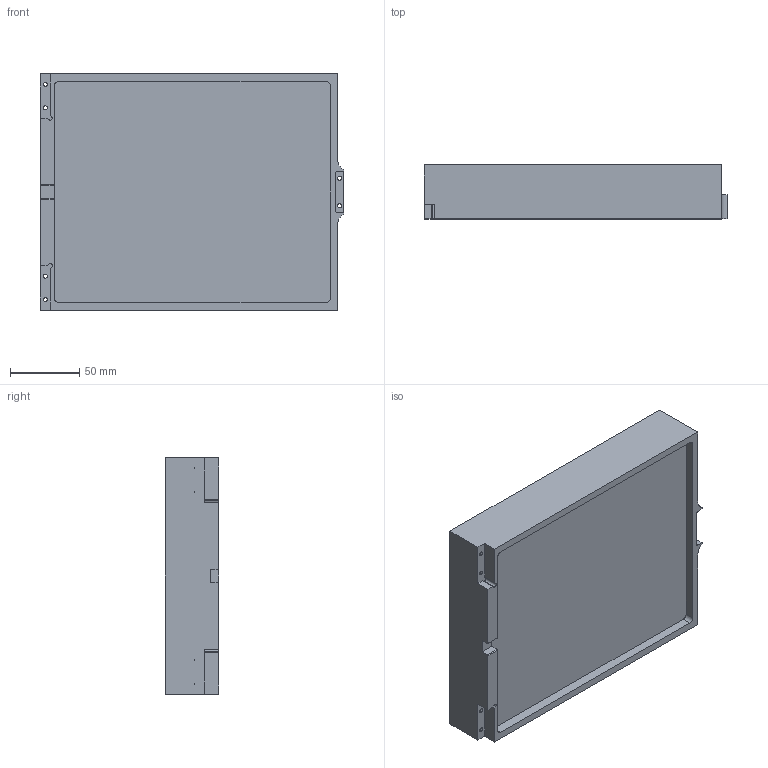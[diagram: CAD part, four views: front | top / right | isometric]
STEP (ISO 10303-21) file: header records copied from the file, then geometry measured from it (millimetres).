
FILE_DESCRIPTION (( 'STEP AP214' ), '1' );
FILE_NAME ('Asyril_FLAT VIBRATING PLATE SEP (POM-C) - 240_000.104.985_(option).STEP', '2021-10-18T08:43:03', ( '' ), ( '' ), 'SwSTEP 2.0', 'SolidWorks 2017', '' );
FILE_SCHEMA (( 'AUTOMOTIVE_DESIGN' ));
Length unit declared in the file: millimetre
Products named in the file (1): Asyril_FLAT VIBRATING PLATE SEP (POM-C) - 240_000.104.985_(option)
Bounding box: 219.5 x 39 x 171 mm (x, y, z)
Volume: 392191.7 mm3; surface area: 134149.7 mm2
Topology: 1 solids, 1 shells, 133 faces, 335 edges, 210 vertices
Faces by surface type: plane 70, cylinder 53, cone 10
Entity records: 4013 total; most frequent: DIRECTION 709, CARTESIAN_POINT 679, ORIENTED_EDGE 670, EDGE_CURVE 335, AXIS2_PLACEMENT_3D 240, LINE 229, VECTOR 229, VERTEX_POINT 210
